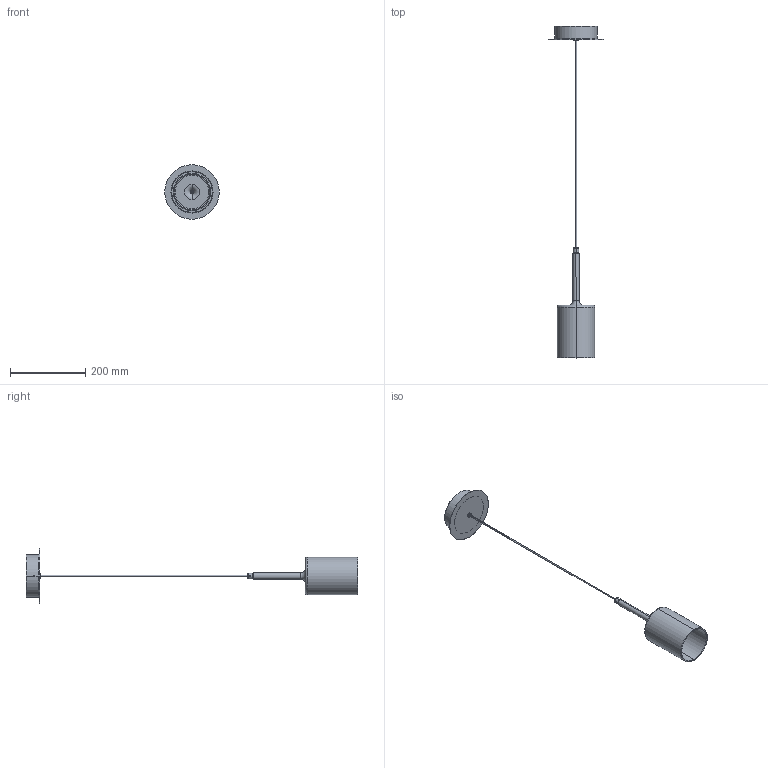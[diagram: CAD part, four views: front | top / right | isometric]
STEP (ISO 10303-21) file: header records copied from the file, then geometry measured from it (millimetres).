
FILE_DESCRIPTION (( 'STEP AP203' ), '1' );
FILE_NAME ('SPSPILM01XXXXXX-PER 3D.STEP', '2025-06-25T14:09:22', ( '' ), ( '' ), 'SwSTEP 2.0', 'SolidWorks 2024', '' );
FILE_SCHEMA (( 'CONFIG_CONTROL_DESIGN' ));
Length unit declared in the file: millimetre
Products named in the file (9): SPSPILM01XXXXXX-PER 3D; VSPILLRAYMCS; CAVO NL2CN_CAVO NL2CN; WSCM2F0036-0100-00; WSM2G1522-FR------; PENDENTE SPILLRAY EVO M-00; WSCM2A0119-0700-00; WSASS-000000060-00; WSCM2C0178-0100-00
Assembly tree (8 placements, depth 3):
  SPSPILM01XXXXXX-PER 3D
    WSASS-000000060-00
      WSCM2C0178-0100-00
      WSCM2F0036-0100-00
      WSM2G1522-FR------
    PENDENTE SPILLRAY EVO M-00
      WSCM2A0119-0700-00
      CAVO NL2CN_CAVO NL2CN
      VSPILLRAYMCS
Bounding box: 145 x 883.49 x 145 mm (x, y, z)
Volume: 215028.9 mm3; surface area: 204835.3 mm2
Topology: 9 solids, 9 shells, 159 faces, 341 edges, 204 vertices
Faces by surface type: cylinder 69, torus 36, plane 32, cone 20, bspline 2
Entity records: 5768 total; most frequent: CARTESIAN_POINT 1235, DIRECTION 857, ORIENTED_EDGE 682, AXIS2_PLACEMENT_3D 374, EDGE_CURVE 341, CIRCLE 204, VERTEX_POINT 204, EDGE_LOOP 179
